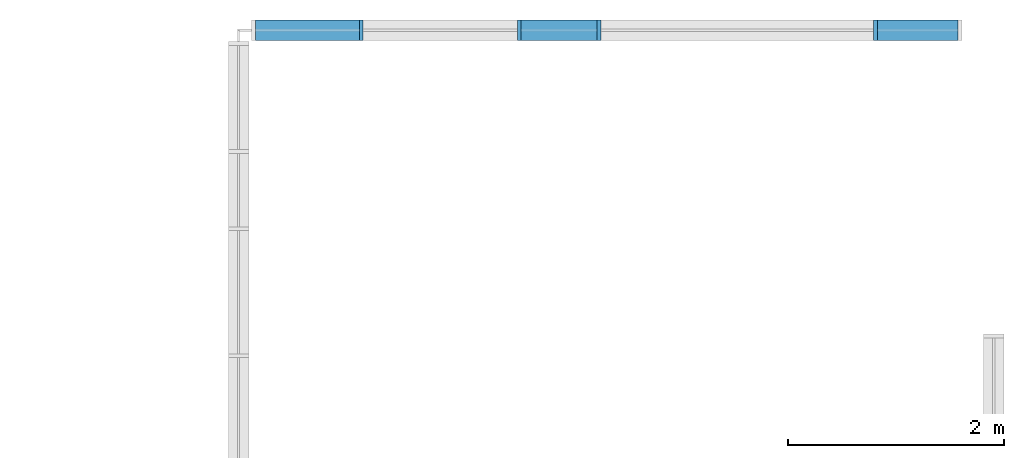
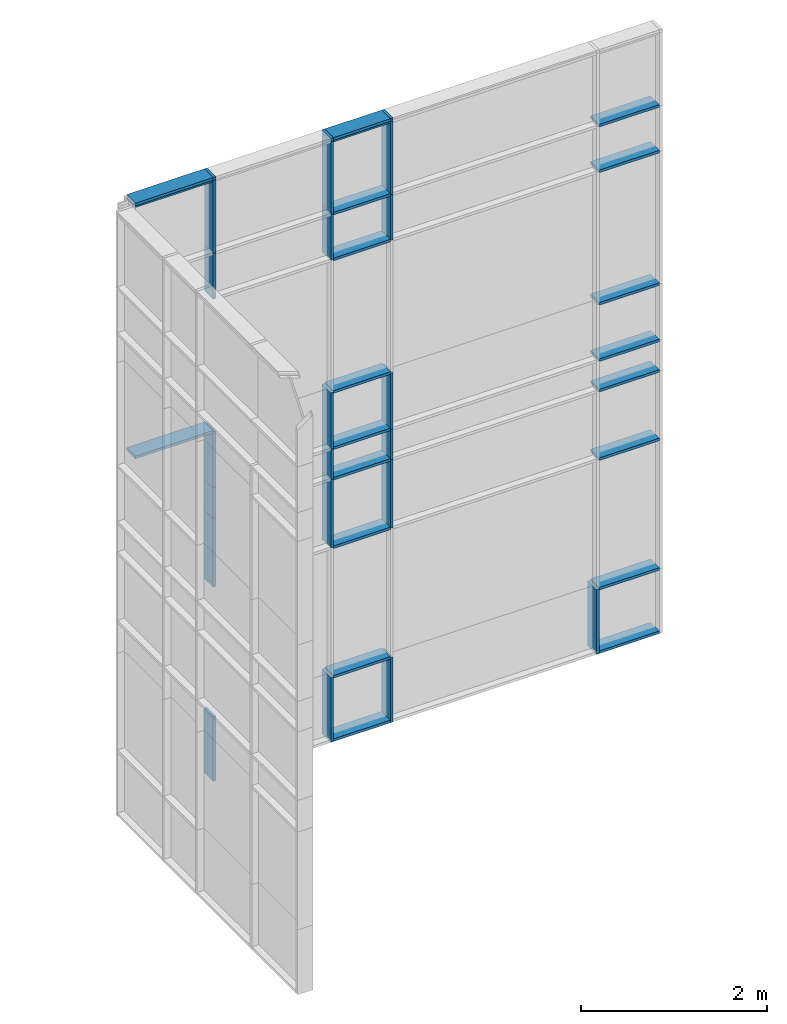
# One storey, part 20 of 73: 43 members, 1 element without a shape of its own.
"""IFC2X3 building model written with IfcOpenShell, lengths in millimetres."""

from ifc_helpers import new_model, entity, si_unit, converted_unit, derived_unit, direction, frame, frame_2d, origin, origin_2d_with_axis, place, context, subcontext, project, spatial, rectangle, extrude, source, transform, mapped, material, type_object, type_shapes, element, aggregate, save


model = new_model("IFC2X3")

# Units and contexts
model_context = context("Model", 3, precision=0.01, world=origin(), true_north=direction((6.12303176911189e-17, 1.0)))
body_context = subcontext(model_context, "Body", "Model", "MODEL_VIEW")
ifc_project = project(units=[si_unit("LENGTHUNIT", "METRE", prefix="MILLI"), si_unit("AREAUNIT", "SQUARE_METRE"), si_unit("VOLUMEUNIT", "CUBIC_METRE"), converted_unit("PLANEANGLEUNIT", "DEGREE", entity("IfcRatioMeasure", 0.0174532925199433), si_unit("PLANEANGLEUNIT", "RADIAN"), dimensions=[0, 0, 0, 0, 0, 0, 0]), si_unit("MASSUNIT", "GRAM", prefix="KILO"), derived_unit("MASSDENSITYUNIT", [(si_unit("MASSUNIT", "GRAM", prefix="KILO"), 1), (si_unit("LENGTHUNIT", "METRE"), -3)]), si_unit("TIMEUNIT", "SECOND"), si_unit("FREQUENCYUNIT", "HERTZ"), si_unit("THERMODYNAMICTEMPERATUREUNIT", "DEGREE_CELSIUS"), derived_unit("THERMALTRANSMITTANCEUNIT", [(si_unit("MASSUNIT", "GRAM", prefix="KILO"), 1), (si_unit("THERMODYNAMICTEMPERATUREUNIT", "KELVIN"), -1), (si_unit("TIMEUNIT", "SECOND"), -3)]), derived_unit("VOLUMETRICFLOWRATEUNIT", [(si_unit("LENGTHUNIT", "METRE"), 3), (si_unit("TIMEUNIT", "SECOND"), -1)]), si_unit("ELECTRICCURRENTUNIT", "AMPERE"), si_unit("ELECTRICVOLTAGEUNIT", "VOLT"), si_unit("POWERUNIT", "WATT"), si_unit("FORCEUNIT", "NEWTON", prefix="KILO"), si_unit("ILLUMINANCEUNIT", "LUX"), si_unit("LUMINOUSFLUXUNIT", "LUMEN"), si_unit("LUMINOUSINTENSITYUNIT", "CANDELA"), derived_unit("USERDEFINED", [(si_unit("MASSUNIT", "GRAM", prefix="KILO"), -1), (si_unit("LENGTHUNIT", "METRE"), -2), (si_unit("TIMEUNIT", "SECOND"), 3), (si_unit("LUMINOUSFLUXUNIT", "LUMEN"), 1)]), derived_unit("LINEARVELOCITYUNIT", [(si_unit("LENGTHUNIT", "METRE"), 1), (si_unit("TIMEUNIT", "SECOND"), -1)]), si_unit("PRESSUREUNIT", "PASCAL"), derived_unit("USERDEFINED", [(si_unit("LENGTHUNIT", "METRE"), -2), (si_unit("MASSUNIT", "GRAM", prefix="KILO"), 1), (si_unit("TIMEUNIT", "SECOND"), -2)])], contexts=[model_context])

# Site, building, storey
site_placement = place(None, frame((-151.875543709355, 2715.0, 0.0)))
site = spatial("IfcSite", under=ifc_project, at=site_placement, Name="Surface", CompositionType="ELEMENT")
building_placement = place(site_placement, origin())
building = spatial("IfcBuilding", under=site, at=building_placement, CompositionType="ELEMENT")
storey_placement = place(building_placement, frame((0.0, 0.0, 6730.43000000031)))
storey = spatial("IfcBuildingStorey", under=building, at=storey_placement, Name="3 korrus", CompositionType="ELEMENT", Elevation=6730.43000000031)

# Curtain wall, members
curtain_wall_type = type_object("IfcCurtainWallType", Name="Curtain Wall:Klaasfassaad2", PredefinedType="NOTDEFINED")
curtain_wall_placement = place(storey_placement, frame((0.0, 0.0, -6730.43000000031)))
curtain_wall = element("IfcCurtainWall", 1, at=curtain_wall_placement, inside=storey, type_object=curtain_wall_type, Name="Curtain Wall:Klaasfassaad2", ObjectType="Curtain Wall:Klaasfassaad2")
ifc_material = material(Name="Steel/Aluminium")
member_type_1 = type_object("IfcMemberType", Name="35 x 190mm", PredefinedType="MEMBER")
shared_shape_1 = source(origin(), body_context, "Body", "SweptSolid", [
    extrude(rectangle(XDim=190.0, YDim=35.0, at=frame_2d((2.1316282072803e-14, 0.0), x_axis=(1.0, 0.0))), frame((-17.5, 0.0, -747.499999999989), z_axis=(0.0, 0.0, 1.0), x_axis=(0.0, -1.0, 0.0)), (0.0, 0.0, 1.0), 747.499999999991),
])
type_shapes(member_type_1, [shared_shape_1])
member_1_placement = place(storey_placement, frame((38371.6162682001, 26624.0, -2856.00226032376), z_axis=(1.0, 0.0, 0.0), x_axis=(0.0, 0.0, -1.0)))
member_1 = element("IfcMember", 2, at=member_1_placement, type_object=member_type_1, material=ifc_material, Name="Rectangular Mullion:35 x 190mm", ObjectType="35 x 190mm", context=body_context, shape_type="MappedRepresentation", body=[
    mapped(shared_shape_1, transform((0.0, 0.0, 0.0), scale=1.0)),
])
member_type_2 = type_object("IfcMemberType", Name="35 x 190mm", PredefinedType="MEMBER")
shared_shape_2 = source(origin(), body_context, "Body", "SweptSolid", [
    extrude(rectangle(XDim=190.0, YDim=35.0, at=origin_2d_with_axis()), frame((0.0, 0.0, -747.499999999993), z_axis=(0.0, 0.0, 1.0), x_axis=(0.0, -1.0, 0.0)), (0.0, 0.0, 1.0), 747.49999999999),
])
type_shapes(member_type_2, [shared_shape_2])
member_2_placement = place(storey_placement, frame((37624.1162682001, 26624.0, 4074.47692901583), z_axis=(-1.0, 0.0, 0.0), x_axis=(0.0, 0.0, 1.0)))
member_2 = element("IfcMember", 3, at=member_2_placement, type_object=member_type_2, material=ifc_material, Name="Rectangular Mullion:35 x 190mm", ObjectType="35 x 190mm", context=body_context, shape_type="MappedRepresentation", body=[
    mapped(shared_shape_2, transform((0.0, 0.0, 0.0), scale=1.0)),
])
member_type_3 = type_object("IfcMemberType", Name="35 x 190mm", PredefinedType="MEMBER")
shared_shape_3 = source(origin(), body_context, "Body", "SweptSolid", [
    extrude(rectangle(XDim=190.0, YDim=35.0, at=origin_2d_with_axis()), frame((0.0, 0.0, -747.499999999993), z_axis=(0.0, 0.0, 1.0), x_axis=(0.0, -1.0, 0.0)), (0.0, 0.0, 1.0), 747.499999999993),
])
type_shapes(member_type_3, [shared_shape_3])
member_3_placement = place(storey_placement, frame((37624.1162682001, 26624.0, 3474.47692901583), z_axis=(-1.0, 0.0, 0.0), x_axis=(0.0, 0.0, 1.0)))
member_3 = element("IfcMember", 4, at=member_3_placement, type_object=member_type_3, material=ifc_material, Name="Rectangular Mullion:35 x 190mm", ObjectType="35 x 190mm", context=body_context, shape_type="MappedRepresentation", body=[
    mapped(shared_shape_3, transform((0.0, 0.0, 0.0), scale=1.0)),
])
member_type_4 = type_object("IfcMemberType", Name="35 x 190mm", PredefinedType="MEMBER")
shared_shape_4 = source(origin(), body_context, "Body", "SweptSolid", [
    extrude(rectangle(XDim=190.0, YDim=35.0, at=origin_2d_with_axis()), frame((0.0, 0.0, -747.499999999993), z_axis=(0.0, 0.0, 1.0), x_axis=(0.0, -1.0, 0.0)), (0.0, 0.0, 1.0), 747.49999999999),
])
type_shapes(member_type_4, [shared_shape_4])
member_4_placement = place(storey_placement, frame((37624.1162682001, 26624.0, 994.476929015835), z_axis=(-1.0, 0.0, 0.0), x_axis=(0.0, 0.0, 1.0)))
member_4 = element("IfcMember", 5, at=member_4_placement, type_object=member_type_4, material=ifc_material, Name="Rectangular Mullion:35 x 190mm", ObjectType="35 x 190mm", context=body_context, shape_type="MappedRepresentation", body=[
    mapped(shared_shape_4, transform((0.0, 0.0, 0.0), scale=1.0)),
])
member_type_5 = type_object("IfcMemberType", Name="35 x 190mm", PredefinedType="MEMBER")
shared_shape_5 = source(origin(), body_context, "Body", "SweptSolid", [
    extrude(rectangle(XDim=190.0, YDim=35.0, at=origin_2d_with_axis()), frame((0.0, 0.0, -747.499999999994), z_axis=(0.0, 0.0, 1.0), x_axis=(0.0, -1.0, 0.0)), (0.0, 0.0, 1.0), 747.499999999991),
])
type_shapes(member_type_5, [shared_shape_5])
member_5_placement = place(storey_placement, frame((37624.1162682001, 26624.0, 594.476929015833), z_axis=(-1.0, 0.0, 0.0), x_axis=(0.0, 0.0, 1.0)))
member_5 = element("IfcMember", 6, at=member_5_placement, type_object=member_type_5, material=ifc_material, Name="Rectangular Mullion:35 x 190mm", ObjectType="35 x 190mm", context=body_context, shape_type="MappedRepresentation", body=[
    mapped(shared_shape_5, transform((0.0, 0.0, 0.0), scale=1.0)),
])
member_type_6 = type_object("IfcMemberType", Name="35 x 190mm", PredefinedType="MEMBER")
shared_shape_6 = source(origin(), body_context, "Body", "SweptSolid", [
    extrude(rectangle(XDim=190.0, YDim=35.0, at=origin_2d_with_axis()), frame((0.0, 0.0, -747.499999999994), z_axis=(0.0, 0.0, 1.0), x_axis=(0.0, -1.0, 0.0)), (0.0, 0.0, 1.0), 747.499999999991),
])
type_shapes(member_type_6, [shared_shape_6])
member_6_placement = place(storey_placement, frame((37624.1162682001, 26624.0, -305.523070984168), z_axis=(-1.0, 0.0, 0.0), x_axis=(0.0, 0.0, 1.0)))
member_6 = element("IfcMember", 7, at=member_6_placement, type_object=member_type_6, material=ifc_material, Name="Rectangular Mullion:35 x 190mm", ObjectType="35 x 190mm", context=body_context, shape_type="MappedRepresentation", body=[
    mapped(shared_shape_6, transform((0.0, 0.0, 0.0), scale=1.0)),
])
member_type_7 = type_object("IfcMemberType", Name="35 x 190mm", PredefinedType="MEMBER")
shared_shape_7 = source(origin(), body_context, "Body", "SweptSolid", [
    extrude(rectangle(XDim=190.0, YDim=35.0, at=origin_2d_with_axis()), frame((0.0, 0.0, -747.499999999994), z_axis=(0.0, 0.0, 1.0), x_axis=(0.0, -1.0, 0.0)), (0.0, 0.0, 1.0), 747.499999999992),
])
type_shapes(member_type_7, [shared_shape_7])
member_7_placement = place(storey_placement, frame((37624.1162682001, 26624.0, -2005.8425305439), z_axis=(-1.0, 0.0, 0.0), x_axis=(0.0, 0.0, 1.0)))
member_7 = element("IfcMember", 8, at=member_7_placement, type_object=member_type_7, material=ifc_material, Name="Rectangular Mullion:35 x 190mm", ObjectType="35 x 190mm", context=body_context, shape_type="MappedRepresentation", body=[
    mapped(shared_shape_7, transform((0.0, 0.0, 0.0), scale=1.0)),
])
member_type_8 = type_object("IfcMemberType", Name="35 x 190mm", PredefinedType="MEMBER")
shared_shape_8 = source(origin(), body_context, "Body", "SweptSolid", [
    extrude(rectangle(XDim=190.0, YDim=35.0, at=origin_2d_with_axis()), frame((0.0, 0.0, -747.499999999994), z_axis=(0.0, 0.0, 1.0), x_axis=(0.0, -1.0, 0.0)), (0.0, 0.0, 1.0), 747.499999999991),
])
type_shapes(member_type_8, [shared_shape_8])
member_8_placement = place(storey_placement, frame((37624.1162682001, 26624.0, 1734.47692901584), z_axis=(-1.0, 0.0, 0.0), x_axis=(0.0, 0.0, 1.0)))
member_8 = element("IfcMember", 9, at=member_8_placement, type_object=member_type_8, material=ifc_material, Name="Rectangular Mullion:35 x 190mm", ObjectType="35 x 190mm", context=body_context, shape_type="MappedRepresentation", body=[
    mapped(shared_shape_8, transform((0.0, 0.0, 0.0), scale=1.0)),
])
member_type_9 = type_object("IfcMemberType", Name="35 x 190mm", PredefinedType="MEMBER")
shared_shape_9 = source(origin(), body_context, "Body", "SweptSolid", [
    extrude(rectangle(XDim=190.0, YDim=35.0, at=origin_2d_with_axis()), frame((-17.5, 0.0, -705.0), z_axis=(0.0, 0.0, 1.0), x_axis=(0.0, -1.0, 0.0)), (0.0, 0.0, 1.0), 705.000000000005),
])
type_shapes(member_type_9, [shared_shape_9])
member_9_placement = place(storey_placement, frame((35029.1162682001, 26624.0, -2856.00226032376), z_axis=(1.0, 0.0, 0.0), x_axis=(0.0, 0.0, -1.0)))
member_9 = element("IfcMember", 10, at=member_9_placement, type_object=member_type_9, material=ifc_material, Name="Rectangular Mullion:35 x 190mm", ObjectType="35 x 190mm", context=body_context, shape_type="MappedRepresentation", body=[
    mapped(shared_shape_9, transform((0.0, 0.0, 0.0), scale=1.0)),
])
member_type_10 = type_object("IfcMemberType", Name="35 x 190mm", PredefinedType="MEMBER")
shared_shape_10 = source(origin(), body_context, "Body", "SweptSolid", [
    extrude(rectangle(XDim=190.0, YDim=35.0, at=origin_2d_with_axis()), frame((0.0, 0.0, -705.0), z_axis=(0.0, 0.0, 1.0), x_axis=(0.0, -1.0, 0.0)), (0.0, 0.0, 1.0), 705.000000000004),
])
type_shapes(member_type_10, [shared_shape_10])
member_10_placement = place(storey_placement, frame((34324.1162682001, 26624.0, 4074.47692901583), z_axis=(-1.0, 0.0, 0.0), x_axis=(0.0, 0.0, 1.0)))
member_10 = element("IfcMember", 11, at=member_10_placement, type_object=member_type_10, material=ifc_material, Name="Rectangular Mullion:35 x 190mm", ObjectType="35 x 190mm", context=body_context, shape_type="MappedRepresentation", body=[
    mapped(shared_shape_10, transform((0.0, 0.0, 0.0), scale=1.0)),
])
member_type_11 = type_object("IfcMemberType", Name="35 x 190mm", PredefinedType="MEMBER")
shared_shape_11 = source(origin(), body_context, "Body", "SweptSolid", [
    extrude(rectangle(XDim=190.0, YDim=35.0, at=origin_2d_with_axis()), frame((0.0, 0.0, -705.0), z_axis=(0.0, 0.0, 1.0), x_axis=(0.0, -1.0, 0.0)), (0.0, 0.0, 1.0), 705.000000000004),
])
type_shapes(member_type_11, [shared_shape_11])
member_11_placement = place(storey_placement, frame((34324.1162682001, 26624.0, 3474.47692901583), z_axis=(-1.0, 0.0, 0.0), x_axis=(0.0, 0.0, 1.0)))
member_11 = element("IfcMember", 12, at=member_11_placement, type_object=member_type_11, material=ifc_material, Name="Rectangular Mullion:35 x 190mm", ObjectType="35 x 190mm", context=body_context, shape_type="MappedRepresentation", body=[
    mapped(shared_shape_11, transform((0.0, 0.0, 0.0), scale=1.0)),
])
member_type_12 = type_object("IfcMemberType", Name="35 x 190mm", PredefinedType="MEMBER")
shared_shape_12 = source(origin(), body_context, "Body", "SweptSolid", [
    extrude(rectangle(XDim=190.0, YDim=35.0, at=origin_2d_with_axis()), frame((0.0, 0.0, -705.0), z_axis=(0.0, 0.0, 1.0), x_axis=(0.0, -1.0, 0.0)), (0.0, 0.0, 1.0), 705.000000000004),
])
type_shapes(member_type_12, [shared_shape_12])
member_12_placement = place(storey_placement, frame((34324.1162682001, 26624.0, 994.476929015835), z_axis=(-1.0, 0.0, 0.0), x_axis=(0.0, 0.0, 1.0)))
member_12 = element("IfcMember", 13, at=member_12_placement, type_object=member_type_12, material=ifc_material, Name="Rectangular Mullion:35 x 190mm", ObjectType="35 x 190mm", context=body_context, shape_type="MappedRepresentation", body=[
    mapped(shared_shape_12, transform((0.0, 0.0, 0.0), scale=1.0)),
])
member_type_13 = type_object("IfcMemberType", Name="35 x 190mm", PredefinedType="MEMBER")
shared_shape_13 = source(origin(), body_context, "Body", "SweptSolid", [
    extrude(rectangle(XDim=190.0, YDim=35.0, at=origin_2d_with_axis()), frame((0.0, 0.0, -705.0), z_axis=(0.0, 0.0, 1.0), x_axis=(0.0, -1.0, 0.0)), (0.0, 0.0, 1.0), 705.000000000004),
])
type_shapes(member_type_13, [shared_shape_13])
member_13_placement = place(storey_placement, frame((34324.1162682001, 26624.0, 594.476929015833), z_axis=(-1.0, 0.0, 0.0), x_axis=(0.0, 0.0, 1.0)))
member_13 = element("IfcMember", 14, at=member_13_placement, type_object=member_type_13, material=ifc_material, Name="Rectangular Mullion:35 x 190mm", ObjectType="35 x 190mm", context=body_context, shape_type="MappedRepresentation", body=[
    mapped(shared_shape_13, transform((0.0, 0.0, 0.0), scale=1.0)),
])
member_type_14 = type_object("IfcMemberType", Name="35 x 190mm", PredefinedType="MEMBER")
shared_shape_14 = source(origin(), body_context, "Body", "SweptSolid", [
    extrude(rectangle(XDim=190.0, YDim=35.0, at=origin_2d_with_axis()), frame((0.0, 0.0, -705.0), z_axis=(0.0, 0.0, 1.0), x_axis=(0.0, -1.0, 0.0)), (0.0, 0.0, 1.0), 705.000000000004),
])
type_shapes(member_type_14, [shared_shape_14])
member_14_placement = place(storey_placement, frame((34324.1162682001, 26624.0, -305.523070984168), z_axis=(-1.0, 0.0, 0.0), x_axis=(0.0, 0.0, 1.0)))
member_14 = element("IfcMember", 15, at=member_14_placement, type_object=member_type_14, material=ifc_material, Name="Rectangular Mullion:35 x 190mm", ObjectType="35 x 190mm", context=body_context, shape_type="MappedRepresentation", body=[
    mapped(shared_shape_14, transform((0.0, 0.0, 0.0), scale=1.0)),
])
member_type_15 = type_object("IfcMemberType", Name="35 x 190mm", PredefinedType="MEMBER")
shared_shape_15 = source(origin(), body_context, "Body", "SweptSolid", [
    extrude(rectangle(XDim=190.0, YDim=35.0, at=origin_2d_with_axis()), frame((0.0, 0.0, -705.0), z_axis=(0.0, 0.0, 1.0), x_axis=(0.0, -1.0, 0.0)), (0.0, 0.0, 1.0), 705.000000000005),
])
type_shapes(member_type_15, [shared_shape_15])
member_15_placement = place(storey_placement, frame((34324.1162682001, 26624.0, -2005.8425305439), z_axis=(-1.0, 0.0, 0.0), x_axis=(0.0, 0.0, 1.0)))
member_15 = element("IfcMember", 16, at=member_15_placement, type_object=member_type_15, material=ifc_material, Name="Rectangular Mullion:35 x 190mm", ObjectType="35 x 190mm", context=body_context, shape_type="MappedRepresentation", body=[
    mapped(shared_shape_15, transform((0.0, 0.0, 0.0), scale=1.0)),
])
member_type_16 = type_object("IfcMemberType", Name="35 x 190mm", PredefinedType="MEMBER")
shared_shape_16 = source(origin(), body_context, "Body", "SweptSolid", [
    extrude(rectangle(XDim=190.0, YDim=35.0, at=origin_2d_with_axis()), frame((0.0, 0.0, -705.0), z_axis=(0.0, 0.0, 1.0), x_axis=(0.0, -1.0, 0.0)), (0.0, 0.0, 1.0), 705.000000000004),
])
type_shapes(member_type_16, [shared_shape_16])
member_16_placement = place(storey_placement, frame((34324.1162682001, 26624.0, 1734.47692901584), z_axis=(-1.0, 0.0, 0.0), x_axis=(0.0, 0.0, 1.0)))
member_16 = element("IfcMember", 17, at=member_16_placement, type_object=member_type_16, material=ifc_material, Name="Rectangular Mullion:35 x 190mm", ObjectType="35 x 190mm", context=body_context, shape_type="MappedRepresentation", body=[
    mapped(shared_shape_16, transform((0.0, 0.0, 0.0), scale=1.0)),
])
member_type_17 = type_object("IfcMemberType", Name="35 x 190mm", PredefinedType="MEMBER")
shared_shape_17 = source(origin(), body_context, "Body", "SweptSolid", [
    extrude(rectangle(XDim=190.0, YDim=35.0, at=origin_2d_with_axis()), frame((0.0, 0.0, -965.0), z_axis=(0.0, 0.0, 1.0), x_axis=(0.0, -1.0, 0.0)), (0.0, 0.0, 1.0), 964.999999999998),
])
type_shapes(member_type_17, [shared_shape_17])
member_17_placement = place(storey_placement, frame((31862.1162682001, 26624.0, 1734.47692901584), z_axis=(-1.0, 0.0, 0.0), x_axis=(0.0, 0.0, 1.0)))
member_17 = element("IfcMember", 18, at=member_17_placement, type_object=member_type_17, material=ifc_material, Name="Rectangular Mullion:35 x 190mm", ObjectType="35 x 190mm", context=body_context, shape_type="MappedRepresentation", body=[
    mapped(shared_shape_17, transform((0.0, 0.0, 0.0), scale=1.0)),
])
member_type_18 = type_object("IfcMemberType", Name="35 x 190mm", PredefinedType="MEMBER")
shared_shape_18 = source(origin(), body_context, "Body", "SweptSolid", [
    extrude(rectangle(XDim=190.0, YDim=35.0, at=origin_2d_with_axis()), frame((0.0, 0.0, -850.159729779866), z_axis=(0.0, 0.0, 1.0), x_axis=(0.0, -1.0, 0.0)), (0.0, 0.0, 1.0), 850.159729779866),
])
type_shapes(member_type_18, [shared_shape_18])
member_18_placement = place(storey_placement, frame((37606.6162682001, 26624.0, -2856.00226032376), z_axis=(0.0, 0.0, -1.0), x_axis=(-1.0, 0.0, 0.0)))
member_18 = element("IfcMember", 19, at=member_18_placement, type_object=member_type_18, material=ifc_material, Name="Rectangular Mullion:35 x 190mm", ObjectType="35 x 190mm", context=body_context, shape_type="MappedRepresentation", body=[
    mapped(shared_shape_18, transform((0.0, 0.0, 0.0), scale=1.0)),
])
member_19_placement = place(storey_placement, frame((35046.6162682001, 26624.0, -2856.00226032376), z_axis=(0.0, 0.0, -1.0), x_axis=(-1.0, 0.0, 0.0)))
member_19 = element("IfcMember", 20, at=member_19_placement, type_object=member_type_18, material=ifc_material, Name="Rectangular Mullion:35 x 190mm", ObjectType="35 x 190mm", context=body_context, shape_type="MappedRepresentation", body=[
    mapped(shared_shape_18, transform((0.0, 0.0, 0.0), scale=1.0)),
])
member_20_placement = place(storey_placement, frame((34306.6162682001, 26624.0, -2856.00226032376), z_axis=(0.0, 0.0, -1.0), x_axis=(-1.0, 0.0, 0.0)))
member_20 = element("IfcMember", 21, at=member_20_placement, type_object=member_type_18, material=ifc_material, Name="Rectangular Mullion:35 x 190mm", ObjectType="35 x 190mm", context=body_context, shape_type="MappedRepresentation", body=[
    mapped(shared_shape_18, transform((0.0, 0.0, 0.0), scale=1.0)),
])
member_21_placement = place(storey_placement, frame((32844.6162682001, 26624.0, -2856.00226032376), z_axis=(0.0, 0.0, -1.0), x_axis=(-1.0, 0.0, 0.0)))
member_21 = element("IfcMember", 22, at=member_21_placement, type_object=member_type_18, material=ifc_material, Name="Rectangular Mullion:35 x 190mm", ObjectType="35 x 190mm", context=body_context, shape_type="MappedRepresentation", body=[
    mapped(shared_shape_18, transform((0.0, 0.0, 0.0), scale=1.0)),
])
member_type_19 = type_object("IfcMemberType", Name="35 x 190mm", PredefinedType="MEMBER")
shared_shape_19 = source(origin(), body_context, "Body", "SweptSolid", [
    extrude(rectangle(XDim=190.0, YDim=35.0, at=origin_2d_with_axis()), frame((0.0, 0.0, -705.0), z_axis=(0.0, 0.0, 1.0), x_axis=(0.0, -1.0, 0.0)), (0.0, 0.0, 1.0), 705.000000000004),
])
type_shapes(member_type_19, [shared_shape_19])
member_22_placement = place(storey_placement, frame((34324.1162682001, 26624.0, 5034.47692901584), z_axis=(-1.0, 0.0, 0.0), x_axis=(0.0, 0.0, 1.0)))
member_22 = element("IfcMember", 23, at=member_22_placement, type_object=member_type_19, material=ifc_material, Name="Rectangular Mullion:35 x 190mm", ObjectType="35 x 190mm", context=body_context, shape_type="MappedRepresentation", body=[
    mapped(shared_shape_19, transform((0.0, 0.0, 0.0), scale=1.0)),
])
member_type_20 = type_object("IfcMemberType", Name="35 x 190mm", PredefinedType="MEMBER")
shared_shape_20 = source(origin(), body_context, "Body", "SweptSolid", [
    extrude(rectangle(XDim=190.0, YDim=35.0, at=origin_2d_with_axis()), frame((0.0, 0.0, -965.0), z_axis=(0.0, 0.0, 1.0), x_axis=(0.0, -1.0, 0.0)), (0.0, 0.0, 1.0), 964.999999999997),
])
type_shapes(member_type_20, [shared_shape_20])
member_23_placement = place(storey_placement, frame((31862.1162682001, 26624.0, 5034.47692901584), z_axis=(-1.0, 0.0, 0.0), x_axis=(0.0, 0.0, 1.0)))
member_23 = element("IfcMember", 24, at=member_23_placement, type_object=member_type_20, material=ifc_material, Name="Rectangular Mullion:35 x 190mm", ObjectType="35 x 190mm", context=body_context, shape_type="MappedRepresentation", body=[
    mapped(shared_shape_20, transform((0.0, 0.0, 0.0), scale=1.0)),
])
member_type_21 = type_object("IfcMemberType", Name="35 x 190mm", PredefinedType="MEMBER")
shared_shape_21 = source(origin(), body_context, "Body", "SweptSolid", [
    extrude(rectangle(XDim=190.0, YDim=35.0, at=frame_2d((2.1316282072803e-14, 0.0), x_axis=(1.0, 0.0))), frame((-17.5, 0.0, -705.0), z_axis=(0.0, 0.0, 1.0), x_axis=(0.0, -1.0, 0.0)), (0.0, 0.0, 1.0), 705.000000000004),
])
type_shapes(member_type_21, [shared_shape_21])
member_24_placement = place(storey_placement, frame((34324.1162682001, 26624.0, 5074.47692901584), z_axis=(-1.0, 0.0, 0.0), x_axis=(0.0, 0.0, 1.0)))
member_24 = element("IfcMember", 25, at=member_24_placement, type_object=member_type_21, material=ifc_material, Name="Rectangular Mullion:35 x 190mm", ObjectType="35 x 190mm", context=body_context, shape_type="MappedRepresentation", body=[
    mapped(shared_shape_21, transform((0.0, 0.0, 0.0), scale=1.0)),
])
member_type_22 = type_object("IfcMemberType", Name="35 x 190mm", PredefinedType="MEMBER")
shared_shape_22 = source(origin(), body_context, "Body", "SweptSolid", [
    extrude(rectangle(XDim=190.0, YDim=35.0, at=origin_2d_with_axis()), frame((-17.5, 0.0, -965.0), z_axis=(0.0, 0.0, 1.0), x_axis=(0.0, -1.0, 0.0)), (0.0, 0.0, 1.0), 964.999999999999),
])
type_shapes(member_type_22, [shared_shape_22])
member_25_placement = place(storey_placement, frame((31862.1162682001, 26624.0, 5074.47692901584), z_axis=(-1.0, 0.0, 0.0), x_axis=(0.0, 0.0, 1.0)))
member_25 = element("IfcMember", 26, at=member_25_placement, type_object=member_type_22, material=ifc_material, Name="Rectangular Mullion:35 x 190mm", ObjectType="35 x 190mm", context=body_context, shape_type="MappedRepresentation", body=[
    mapped(shared_shape_22, transform((0.0, 0.0, 0.0), scale=1.0)),
])
member_type_23 = type_object("IfcMemberType", Name="35 x 190mm", PredefinedType="MEMBER")
shared_shape_23 = source(origin(), body_context, "Body", "SweptSolid", [
    extrude(rectangle(XDim=190.0, YDim=35.0, at=origin_2d_with_axis()), frame((0.0, 0.0, -960.0), z_axis=(0.0, 0.0, 1.0), x_axis=(0.0, -1.0, 0.0)), (0.0, 0.0, 1.0), 960.000000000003),
])
type_shapes(member_type_23, [shared_shape_23])
member_26_placement = place(storey_placement, frame((35046.6162682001, 26624.0, 4074.47692901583), z_axis=(0.0, 0.0, -1.0), x_axis=(-1.0, 0.0, 0.0)))
member_26 = element("IfcMember", 27, at=member_26_placement, type_object=member_type_23, material=ifc_material, Name="Rectangular Mullion:35 x 190mm", ObjectType="35 x 190mm", context=body_context, shape_type="MappedRepresentation", body=[
    mapped(shared_shape_23, transform((0.0, 0.0, 0.0), scale=1.0)),
])
member_27_placement = place(storey_placement, frame((34306.6162682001, 26624.0, 4074.47692901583), z_axis=(0.0, 0.0, -1.0), x_axis=(-1.0, 0.0, 0.0)))
member_27 = element("IfcMember", 28, at=member_27_placement, type_object=member_type_23, material=ifc_material, Name="Rectangular Mullion:35 x 190mm", ObjectType="35 x 190mm", context=body_context, shape_type="MappedRepresentation", body=[
    mapped(shared_shape_23, transform((0.0, 0.0, 0.0), scale=1.0)),
])
member_28_placement = place(storey_placement, frame((32844.6162682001, 26624.0, 4074.47692901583), z_axis=(0.0, 0.0, -1.0), x_axis=(-1.0, 0.0, 0.0)))
member_28 = element("IfcMember", 29, at=member_28_placement, type_object=member_type_23, material=ifc_material, Name="Rectangular Mullion:35 x 190mm", ObjectType="35 x 190mm", context=body_context, shape_type="MappedRepresentation", body=[
    mapped(shared_shape_23, transform((0.0, 0.0, 0.0), scale=1.0)),
])
member_type_24 = type_object("IfcMemberType", Name="35 x 190mm", PredefinedType="MEMBER")
shared_shape_24 = source(origin(), body_context, "Body", "SweptSolid", [
    extrude(rectangle(XDim=190.0, YDim=35.0, at=origin_2d_with_axis()), frame((0.0, 0.0, -600.0), z_axis=(0.0, 0.0, 1.0), x_axis=(0.0, -1.0, 0.0)), (0.0, 0.0, 1.0), 600.000000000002),
])
type_shapes(member_type_24, [shared_shape_24])
member_29_placement = place(storey_placement, frame((35046.6162682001, 26624.0, 3474.47692901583), z_axis=(0.0, 0.0, -1.0), x_axis=(-1.0, 0.0, 0.0)))
member_29 = element("IfcMember", 30, at=member_29_placement, type_object=member_type_24, material=ifc_material, Name="Rectangular Mullion:35 x 190mm", ObjectType="35 x 190mm", context=body_context, shape_type="MappedRepresentation", body=[
    mapped(shared_shape_24, transform((0.0, 0.0, 0.0), scale=1.0)),
])
member_30_placement = place(storey_placement, frame((34306.6162682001, 26624.0, 3474.47692901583), z_axis=(0.0, 0.0, -1.0), x_axis=(-1.0, 0.0, 0.0)))
member_30 = element("IfcMember", 31, at=member_30_placement, type_object=member_type_24, material=ifc_material, Name="Rectangular Mullion:35 x 190mm", ObjectType="35 x 190mm", context=body_context, shape_type="MappedRepresentation", body=[
    mapped(shared_shape_24, transform((0.0, 0.0, 0.0), scale=1.0)),
])
member_31_placement = place(storey_placement, frame((32844.6162682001, 26624.0, 3474.47692901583), z_axis=(0.0, 0.0, -1.0), x_axis=(-1.0, 0.0, 0.0)))
member_31 = element("IfcMember", 32, at=member_31_placement, type_object=member_type_24, material=ifc_material, Name="Rectangular Mullion:35 x 190mm", ObjectType="35 x 190mm", context=body_context, shape_type="MappedRepresentation", body=[
    mapped(shared_shape_24, transform((0.0, 0.0, 0.0), scale=1.0)),
])
member_type_25 = type_object("IfcMemberType", Name="35 x 190mm", PredefinedType="MEMBER")
shared_shape_25 = source(origin(), body_context, "Body", "SweptSolid", [
    extrude(rectangle(XDim=190.0, YDim=35.0, at=origin_2d_with_axis()), frame((0.0, 0.0, -740.0), z_axis=(0.0, 0.0, 1.0), x_axis=(0.0, -1.0, 0.0)), (0.0, 0.0, 1.0), 740.000000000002),
])
type_shapes(member_type_25, [shared_shape_25])
member_32_placement = place(storey_placement, frame((35046.6162682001, 26624.0, 994.476929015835), z_axis=(0.0, 0.0, -1.0), x_axis=(-1.0, 0.0, 0.0)))
member_32 = element("IfcMember", 33, at=member_32_placement, type_object=member_type_25, material=ifc_material, Name="Rectangular Mullion:35 x 190mm", ObjectType="35 x 190mm", context=body_context, shape_type="MappedRepresentation", body=[
    mapped(shared_shape_25, transform((0.0, 0.0, 0.0), scale=1.0)),
])
member_33_placement = place(storey_placement, frame((34306.6162682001, 26624.0, 994.476929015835), z_axis=(0.0, 0.0, -1.0), x_axis=(-1.0, 0.0, 0.0)))
member_33 = element("IfcMember", 34, at=member_33_placement, type_object=member_type_25, material=ifc_material, Name="Rectangular Mullion:35 x 190mm", ObjectType="35 x 190mm", context=body_context, shape_type="MappedRepresentation", body=[
    mapped(shared_shape_25, transform((0.0, 0.0, 0.0), scale=1.0)),
])
member_34_placement = place(storey_placement, frame((32844.6162682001, 26624.0, 994.476929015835), z_axis=(0.0, 0.0, -1.0), x_axis=(-1.0, 0.0, 0.0)))
member_34 = element("IfcMember", 35, at=member_34_placement, type_object=member_type_25, material=ifc_material, Name="Rectangular Mullion:35 x 190mm", ObjectType="35 x 190mm", context=body_context, shape_type="MappedRepresentation", body=[
    mapped(shared_shape_25, transform((0.0, 0.0, 0.0), scale=1.0)),
])
member_type_26 = type_object("IfcMemberType", Name="35 x 190mm", PredefinedType="MEMBER")
shared_shape_26 = source(origin(), body_context, "Body", "SweptSolid", [
    extrude(rectangle(XDim=190.0, YDim=35.0, at=origin_2d_with_axis()), frame((0.0, 0.0, -400.0), z_axis=(0.0, 0.0, 1.0), x_axis=(0.0, -1.0, 0.0)), (0.0, 0.0, 1.0), 400.0),
])
type_shapes(member_type_26, [shared_shape_26])
member_35_placement = place(storey_placement, frame((35046.6162682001, 26624.0, 594.476929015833), z_axis=(0.0, 0.0, -1.0), x_axis=(-1.0, 0.0, 0.0)))
member_35 = element("IfcMember", 36, at=member_35_placement, type_object=member_type_26, material=ifc_material, Name="Rectangular Mullion:35 x 190mm", ObjectType="35 x 190mm", context=body_context, shape_type="MappedRepresentation", body=[
    mapped(shared_shape_26, transform((0.0, 0.0, 0.0), scale=1.0)),
])
member_36_placement = place(storey_placement, frame((34306.6162682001, 26624.0, 594.476929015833), z_axis=(0.0, 0.0, -1.0), x_axis=(-1.0, 0.0, 0.0)))
member_36 = element("IfcMember", 37, at=member_36_placement, type_object=member_type_26, material=ifc_material, Name="Rectangular Mullion:35 x 190mm", ObjectType="35 x 190mm", context=body_context, shape_type="MappedRepresentation", body=[
    mapped(shared_shape_26, transform((0.0, 0.0, 0.0), scale=1.0)),
])
member_37_placement = place(storey_placement, frame((32844.6162682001, 26624.0, 594.476929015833), z_axis=(0.0, 0.0, -1.0), x_axis=(-1.0, 0.0, 0.0)))
member_37 = element("IfcMember", 38, at=member_37_placement, type_object=member_type_26, material=ifc_material, Name="Rectangular Mullion:35 x 190mm", ObjectType="35 x 190mm", context=body_context, shape_type="MappedRepresentation", body=[
    mapped(shared_shape_26, transform((0.0, 0.0, 0.0), scale=1.0)),
])
member_type_27 = type_object("IfcMemberType", Name="35 x 190mm", PredefinedType="MEMBER")
shared_shape_27 = source(origin(), body_context, "Body", "SweptSolid", [
    extrude(rectangle(XDim=190.0, YDim=35.0, at=origin_2d_with_axis()), frame((0.0, 0.0, -900.0), z_axis=(0.0, 0.0, 1.0), x_axis=(0.0, -1.0, 0.0)), (0.0, 0.0, 1.0), 900.000000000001),
])
type_shapes(member_type_27, [shared_shape_27])
member_38_placement = place(storey_placement, frame((35046.6162682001, 26624.0, -305.523070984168), z_axis=(0.0, 0.0, -1.0), x_axis=(-1.0, 0.0, 0.0)))
member_38 = element("IfcMember", 39, at=member_38_placement, type_object=member_type_27, material=ifc_material, Name="Rectangular Mullion:35 x 190mm", ObjectType="35 x 190mm", context=body_context, shape_type="MappedRepresentation", body=[
    mapped(shared_shape_27, transform((0.0, 0.0, 0.0), scale=1.0)),
])
member_39_placement = place(storey_placement, frame((34306.6162682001, 26624.0, -305.523070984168), z_axis=(0.0, 0.0, -1.0), x_axis=(-1.0, 0.0, 0.0)))
member_39 = element("IfcMember", 40, at=member_39_placement, type_object=member_type_27, material=ifc_material, Name="Rectangular Mullion:35 x 190mm", ObjectType="35 x 190mm", context=body_context, shape_type="MappedRepresentation", body=[
    mapped(shared_shape_27, transform((0.0, 0.0, 0.0), scale=1.0)),
])
member_40_placement = place(storey_placement, frame((32844.6162682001, 26624.0, -305.523070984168), z_axis=(0.0, 0.0, -1.0), x_axis=(-1.0, 0.0, 0.0)))
member_40 = element("IfcMember", 41, at=member_40_placement, type_object=member_type_27, material=ifc_material, Name="Rectangular Mullion:35 x 190mm", ObjectType="35 x 190mm", context=body_context, shape_type="MappedRepresentation", body=[
    mapped(shared_shape_27, transform((0.0, 0.0, 0.0), scale=1.0)),
])
member_type_28 = type_object("IfcMemberType", Name="35 x 190mm", PredefinedType="MEMBER")
shared_shape_28 = source(origin(), body_context, "Body", "SweptSolid", [
    extrude(rectangle(XDim=190.0, YDim=35.0, at=origin_2d_with_axis()), frame((0.0, 0.0, -40.0), z_axis=(0.0, 0.0, 1.0), x_axis=(0.0, -1.0, 0.0)), (0.0, 0.0, 1.0), 39.9999999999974),
])
type_shapes(member_type_28, [shared_shape_28])
member_41_placement = place(storey_placement, frame((35046.6162682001, 26624.0, 5034.47692901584), z_axis=(0.0, 0.0, -1.0), x_axis=(-1.0, 0.0, 0.0)))
member_41 = element("IfcMember", 42, at=member_41_placement, type_object=member_type_28, material=ifc_material, Name="Rectangular Mullion:35 x 190mm", ObjectType="35 x 190mm", context=body_context, shape_type="MappedRepresentation", body=[
    mapped(shared_shape_28, transform((0.0, 0.0, 0.0), scale=1.0)),
])
member_42_placement = place(storey_placement, frame((34306.6162682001, 26624.0, 5034.47692901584), z_axis=(0.0, 0.0, -1.0), x_axis=(-1.0, 0.0, 0.0)))
member_42 = element("IfcMember", 43, at=member_42_placement, type_object=member_type_28, material=ifc_material, Name="Rectangular Mullion:35 x 190mm", ObjectType="35 x 190mm", context=body_context, shape_type="MappedRepresentation", body=[
    mapped(shared_shape_28, transform((0.0, 0.0, 0.0), scale=1.0)),
])
member_43_placement = place(storey_placement, frame((32844.6162682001, 26624.0, 5034.47692901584), z_axis=(0.0, 0.0, -1.0), x_axis=(-1.0, 0.0, 0.0)))
member_43 = element("IfcMember", 44, at=member_43_placement, type_object=member_type_28, material=ifc_material, Name="Rectangular Mullion:35 x 190mm", ObjectType="35 x 190mm", context=body_context, shape_type="MappedRepresentation", body=[
    mapped(shared_shape_28, transform((0.0, 0.0, 0.0), scale=1.0)),
])
aggregate(curtain_wall, [member_1, member_2, member_3, member_4, member_5, member_6, member_7, member_8, member_9, member_10, member_11, member_12, member_13, member_14, member_15, member_16, member_17, member_18, member_19, member_20, member_21, member_22, member_23, member_24, member_25, member_26, member_29, member_32, member_35, member_38, member_41, member_27, member_30, member_33, member_36, member_39, member_42, member_28, member_31, member_34, member_37, member_40, member_43])

save(model, "model.ifc")
